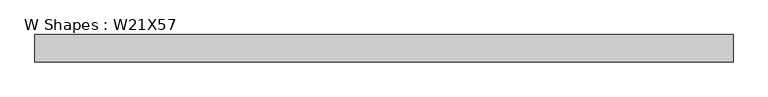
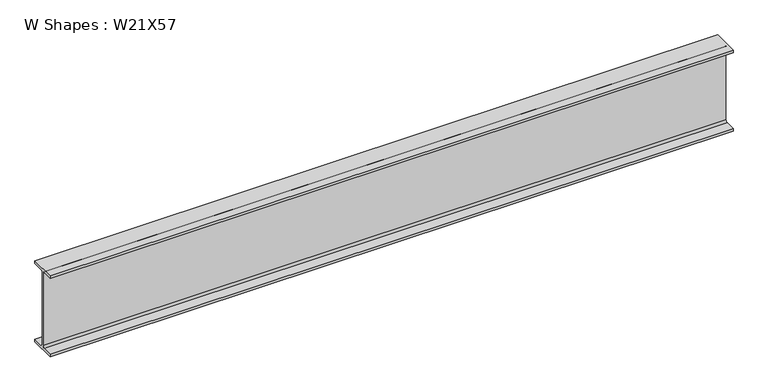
"""IFC4 building model written with IfcOpenShell, lengths in millimetres: beam geometry, W Shapes : W21X57."""

from ifc_helpers import new_model, si_unit, point, frame, frame_2d, origin, place, context, project, spatial, polyline, circle_curve, trimmed, segment, composite_curve, outline, extrude, source, transform, mapped, element, save


def w_shapes_w21x57_6fd070a8(model_context):
    return source(origin(), model_context, "Body", "SweptSolid", [
        extrude(outline(composite_curve([segment(polyline([(83.312, -251.46), (83.312, -267.97), (-83.312, -267.97), (-83.312, -251.46), (-17.907, -251.46)]), True, "CONTINUOUS"), segment(trimmed(circle_curve(frame_2d((-17.907, -238.76)), 12.7), [point((-17.907, -251.46))], [point((-5.207, -238.76))], True, "CARTESIAN"), True, "CONTINUOUS"), segment(polyline([(-5.207, -238.76), (-5.207, 238.76)]), True, "CONTINUOUS"), segment(trimmed(circle_curve(frame_2d((-17.907, 238.76)), 12.7), [point((-5.207, 238.76))], [point((-17.907, 251.46))], True, "CARTESIAN"), True, "CONTINUOUS"), segment(polyline([(-17.907, 251.46), (-83.312, 251.46), (-83.312, 267.97), (83.312, 267.97), (83.312, 251.46), (17.907, 251.46)]), True, "CONTINUOUS"), segment(trimmed(circle_curve(frame_2d((17.907, 238.76)), 12.7), [point((17.907, 251.46))], [point((5.207, 238.76))], True, "CARTESIAN"), True, "CONTINUOUS"), segment(polyline([(5.207, 238.76), (5.207, -238.76)]), True, "CONTINUOUS"), segment(trimmed(circle_curve(frame_2d((17.907, -238.76)), 12.7), [point((5.207, -238.76))], [point((17.907, -251.46))], True, "CARTESIAN"), True, "CONTINUOUS"), segment(polyline([(17.907, -251.46), (83.312, -251.46)]), True, "CONTINUOUS")], self_intersect=False)), frame((-2099.5171424, 0.0, 0.0), z_axis=(1.0, 0.0, 0.0), x_axis=(0.0, 1.0, 0.0)), (0.0, 0.0, 1.0), 4273.8568363),
    ])


if __name__ == "__main__":
    model = new_model("IFC4")
    model_context = context("Model", 3, world=origin())
    ifc_project = project(units=[si_unit("LENGTHUNIT", "METRE", prefix="MILLI")], contexts=[model_context])
    site = spatial("IfcSite", under=ifc_project)
    building = spatial("IfcBuilding", under=site)
    placement = place(None, origin())
    w_shapes_w21x57_shape = w_shapes_w21x57_6fd070a8(model_context)
    element("IfcBeam", 1, ObjectType="W Shapes : W21X57", at=placement, inside=building, context=model_context, shape_type="MappedRepresentation", body=[
        mapped(w_shapes_w21x57_shape, transform((0.0, 0.0, 0.0), x_axis=(1.0, 0.0, 0.0), y_axis=(0.0, 1.0, 0.0), z_axis=(0.0, 0.0, 1.0))),
    ])
    save(model, "model.ifc")
